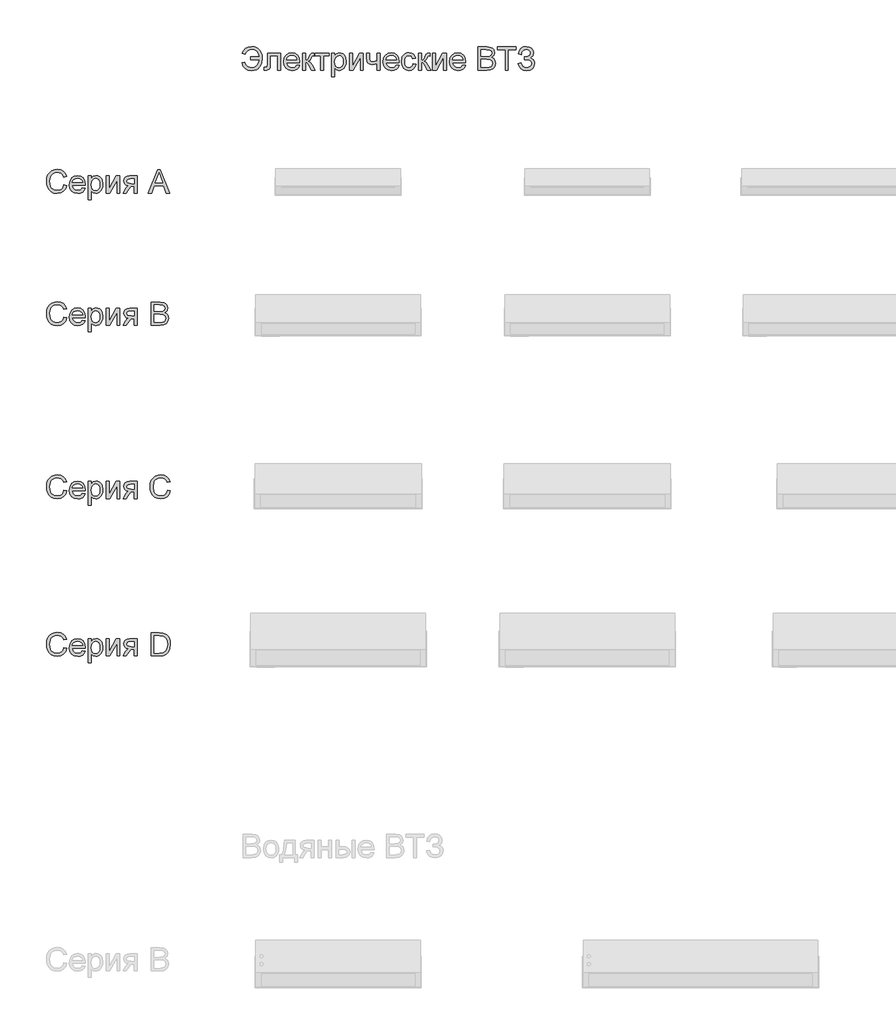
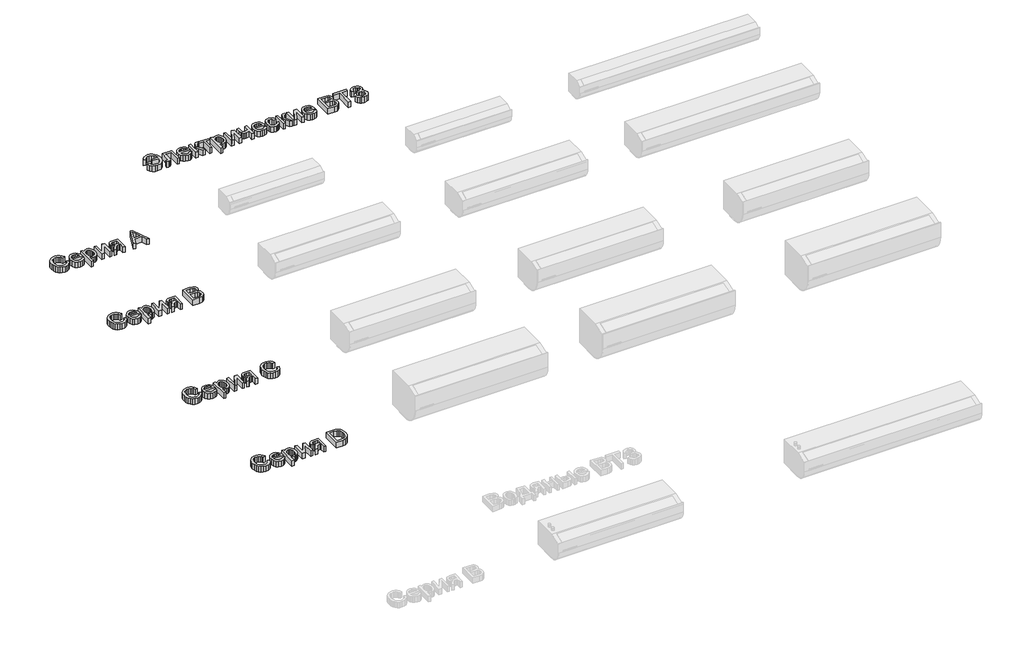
# One storey, part 6 of 6: 5 proxies.
"""IFC4 building model written with IfcOpenShell, lengths in millimetres."""

from ifc_helpers import new_model, si_unit, origin, origin_with_axes, place, context, project, spatial, polyline, outline, extrude, element, save

model = new_model("IFC4")

# Units and contexts
model_context = context("Model", 3, world=origin())
ifc_project = project(units=[si_unit("LENGTHUNIT", "METRE", prefix="MILLI")], contexts=[model_context])

# Site, building, storey
site = spatial("IfcSite", under=ifc_project)
building = spatial("IfcBuilding", under=site)
storey = spatial("IfcBuildingStorey", under=building, Name="Уровень 1", Elevation=0.0)

# Proxies
placement = place(None, origin())
element("IfcBuildingElementProxy", 1, Name="600 мм Arial", ObjectType="600 мм Arial", at=placement, inside=storey, context=model_context, shape_type="SweptSolid", body=[
    extrude(outline(polyline([(-13693.6239599, 8154.2997709), (-13638.2393445, 8154.2997709), (-13642.3048493, 8173.3427396), (-13652.0494407, 8187.9956843), (-13667.0314118, 8197.3391338), (-13686.809056, 8200.453617), (-13701.7166582, 8198.578617), (-13713.590907, 8192.953617), (-13722.4318024, 8183.578617), (-13728.2393445, 8170.453617), (-13746.700883, 8175.0690016), (-13738.8042483, 8193.4403959), (-13725.9316522, 8207.3045786), (-13708.7050897, 8216.0125113), (-13687.746556, 8218.9151555), (-13667.6173493, 8216.2513935), (-13650.4989599, 8208.2601074), (-13636.9007027, 8196.1266939), (-13627.3318926, 8181.0365497), (-13621.6663277, 8163.5891338), (-13619.777806, 8144.3839055), (-13623.1942724, 8114.1089656), (-13635.6792483, 8089.0533766), (-13645.3043986, 8079.2332895), (-13657.1606185, 8072.2189415), (-13687.5662676, 8066.6074632), (-13709.6606185, 8069.6363093), (-13727.2657868, 8078.7228478), (-13740.3817724, 8093.8670786), (-13749.0085753, 8115.0690016), (-13730.5470368, 8119.6843863), (-13724.309056, 8104.5401555), (-13714.7177099, 8093.7228478), (-13701.7729983, 8087.2324632), (-13685.4749214, 8085.0690016), (-13667.0674695, 8088.4674391), (-13652.3018445, 8098.6627516), (-13642.3138637, 8114.7534968), (-13638.2393445, 8135.8382324), (-13693.6239599, 8135.8382324), (-13693.6239599, 8154.2997709)])), origin_with_axes(), (0.0, 0.0, 1.0), 50.0),
    extrude(outline(polyline([(-13587.4701137, 8177.3766939), (-13504.3931907, 8177.3766939), (-13504.3931907, 8069.0233286), (-13522.8547291, 8069.0233286), (-13522.8547291, 8158.9151555), (-13569.0085753, 8158.9151555), (-13569.0085753, 8107.172367), (-13570.2525657, 8083.3021747), (-13577.0854983, 8073.2240497), (-13593.2393445, 8068.9151555), (-13608.2393445, 8069.8526555), (-13608.2393445, 8087.3766939), (-13599.982133, 8087.3766939), (-13591.6347772, 8088.5125113), (-13588.2994407, 8092.1182805), (-13587.4701137, 8108.2180401), (-13587.4701137, 8177.3766939)])), origin_with_axes(), (0.0, 0.0, 1.0), 50.0),
    extrude(outline(polyline([(-13400.763383, 8101.2228478), (-13382.6624214, 8098.9151555), (-13389.1843565, 8085.2763334), (-13399.591508, 8075.0810209), (-13413.6495008, 8068.7258526), (-13431.1239599, 8066.6074632), (-13452.7856185, 8070.2628117), (-13469.4532868, 8081.2288574), (-13480.0812916, 8098.7934608), (-13483.6239599, 8122.2444824), (-13480.0452339, 8146.4842661), (-13469.309056, 8164.6122709), (-13452.8667483, 8175.9163574), (-13432.169633, 8179.6843863), (-13412.1170488, 8175.9253718), (-13396.0939118, 8164.6483286), (-13385.5876017, 8146.5563814), (-13382.0854983, 8122.3526555), (-13382.1936714, 8117.3766939), (-13465.1624214, 8117.3766939), (-13461.9668084, 8103.5575834), (-13454.543431, 8093.3983286), (-13443.8297892, 8087.1513334), (-13430.763383, 8085.0690016), (-13412.6624214, 8088.9271747), (-13400.763383, 8101.2228478)]), holes=[polyline([(-13465.1624214, 8135.8382324), (-13400.5470368, 8135.8382324), (-13403.044032, 8145.5918382), (-13407.9388637, 8152.5690016), (-13418.7020849, 8159.0593863), (-13432.2417483, 8161.2228478), (-13444.6861594, 8159.4965858), (-13454.9761233, 8154.3177997), (-13462.1290681, 8146.2453838), (-13465.1624214, 8135.8382324)])]), origin_with_axes(), (0.0, 0.0, 1.0), 50.0),
    extrude(outline(polyline([(-13363.6239599, 8177.3766939), (-13345.1624214, 8177.3766939), (-13345.1624214, 8131.2228478), (-13332.794633, 8134.5401555), (-13322.6624214, 8153.8670786), (-13314.2429503, 8170.5437613), (-13306.8150657, 8175.9704439), (-13293.3114599, 8177.3766939), (-13289.777806, 8177.3766939), (-13289.777806, 8158.8069824), (-13294.7537676, 8158.9151555), (-13303.7681907, 8156.9680401), (-13310.1143445, 8144.8165978), (-13317.560258, 8131.6735689), (-13327.9989599, 8125.2372709), (-13316.3523253, 8118.0527757), (-13304.9220368, 8102.9175593), (-13285.1624214, 8068.9151555), (-13306.1479983, 8068.9151555), (-13325.5109791, 8102.1964055), (-13335.246556, 8116.2769343), (-13345.1624214, 8119.6843863), (-13345.1624214, 8068.9151555), (-13363.6239599, 8068.9151555), (-13363.6239599, 8177.3766939)])), origin_with_axes(), (0.0, 0.0, 1.0), 50.0),
    extrude(outline(polyline([(-13282.8547291, 8177.3766939), (-13195.1624214, 8177.3766939), (-13195.1624214, 8158.9151555), (-13229.777806, 8158.9151555), (-13229.777806, 8068.9151555), (-13248.2393445, 8068.9151555), (-13248.2393445, 8158.9151555), (-13282.8547291, 8158.9151555), (-13282.8547291, 8177.3766939)])), origin_with_axes(), (0.0, 0.0, 1.0), 50.0),
    extrude(outline(polyline([(-13179.0085753, 8027.3766939), (-13179.0085753, 8177.3766939), (-13160.5470368, 8177.3766939), (-13160.5470368, 8159.2757324), (-13147.7826137, 8174.5822228), (-13130.5470368, 8179.6843863), (-13118.0620608, 8177.8995305), (-13107.1455945, 8172.5449632), (-13098.2573733, 8163.9452036), (-13091.857133, 8152.4247709), (-13086.700883, 8123.9752516), (-13088.1567123, 8108.1864896), (-13092.5242003, 8094.0653959), (-13099.6636233, 8082.328617), (-13109.435258, 8073.6927997), (-13120.8159671, 8068.3787973), (-13132.7826137, 8066.6074632), (-13148.8463157, 8071.3490497), (-13160.5470368, 8083.3382324), (-13160.5470368, 8027.3766939), (-13179.0085753, 8027.3766939)]), holes=[polyline([(-13160.5470368, 8122.2805401), (-13158.5503421, 8105.7300593), (-13152.560258, 8094.1555401), (-13143.7216161, 8087.3406363), (-13133.1792483, 8085.0690016), (-13122.4656065, 8087.4217661), (-13113.4016041, 8094.4800593), (-13107.2222171, 8106.4782564), (-13105.1624214, 8123.6507324), (-13107.1726378, 8140.1110689), (-13113.2032868, 8151.8478478), (-13122.028407, 8158.8790978), (-13132.4220368, 8161.2228478), (-13142.8562315, 8158.7303598), (-13152.0193926, 8151.2528959), (-13158.4151258, 8139.024831), (-13160.5470368, 8122.2805401)])]), origin_with_axes(), (0.0, 0.0, 1.0), 50.0),
    extrude(outline(polyline([(-13065.9316522, 8177.3766939), (-13047.4701137, 8177.3766939), (-13047.4701137, 8094.6603478), (-13002.1095368, 8177.3766939), (-12978.2393445, 8177.3766939), (-12978.2393445, 8068.9151555), (-12996.700883, 8068.9151555), (-12996.700883, 8151.1266939), (-13041.7729983, 8068.9151555), (-13065.9316522, 8068.9151555), (-13065.9316522, 8177.3766939)])), origin_with_axes(), (0.0, 0.0, 1.0), 50.0),
    extrude(outline(polyline([(-12957.4701137, 8177.3766939), (-12939.0085753, 8177.3766939), (-12939.0085753, 8156.5714055), (-12937.512181, 8137.0641939), (-12930.3186714, 8126.4992901), (-12916.0398253, 8121.9920786), (-12890.5470368, 8127.5810209), (-12890.5470368, 8177.3766939), (-12872.0854983, 8177.3766939), (-12872.0854983, 8068.9151555), (-12890.5470368, 8068.9151555), (-12890.5470368, 8109.8766939), (-12920.9797291, 8103.5305401), (-12932.1440921, 8105.1846867), (-12941.9112195, 8110.1471266), (-12949.5238998, 8117.5074031), (-12954.2249214, 8126.3550593), (-12957.4701137, 8147.4488093), (-12957.4701137, 8177.3766939)])), origin_with_axes(), (0.0, 0.0, 1.0), 50.0),
    extrude(outline(polyline([(-12768.4556907, 8101.2228478), (-12750.3547291, 8098.9151555), (-12756.8766642, 8085.2763334), (-12767.2838157, 8075.0810209), (-12781.3418084, 8068.7258526), (-12798.8162676, 8066.6074632), (-12820.4779262, 8070.2628117), (-12837.1455945, 8081.2288574), (-12847.7735993, 8098.7934608), (-12851.3162676, 8122.2444824), (-12847.7375416, 8146.4842661), (-12837.0013637, 8164.6122709), (-12820.559056, 8175.9163574), (-12799.8619407, 8179.6843863), (-12779.8093565, 8175.9253718), (-12763.7862195, 8164.6483286), (-12753.2799094, 8146.5563814), (-12749.777806, 8122.3526555), (-12749.8859791, 8117.3766939), (-12832.8547291, 8117.3766939), (-12829.6591161, 8103.5575834), (-12822.2357387, 8093.3983286), (-12811.5220969, 8087.1513334), (-12798.4556907, 8085.0690016), (-12780.3547291, 8088.9271747), (-12768.4556907, 8101.2228478)]), holes=[polyline([(-12832.8547291, 8135.8382324), (-12768.2393445, 8135.8382324), (-12770.7363397, 8145.5918382), (-12775.6311714, 8152.5690016), (-12786.3943926, 8159.0593863), (-12799.934056, 8161.2228478), (-12812.3784671, 8159.4965858), (-12822.668431, 8154.3177997), (-12829.8213758, 8146.2453838), (-12832.8547291, 8135.8382324)])]), origin_with_axes(), (0.0, 0.0, 1.0), 50.0),
    extrude(outline(polyline([(-12662.0854983, 8108.1459247), (-12643.6239599, 8105.8382324), (-12648.7711955, 8089.4184608), (-12658.4436714, 8077.0101074), (-12671.730931, 8069.2081242), (-12687.7225176, 8066.6074632), (-12707.3604383, 8070.2357685), (-12722.716508, 8081.1206843), (-12732.6278661, 8098.7844463), (-12735.9316522, 8122.7492901), (-12730.2886233, 8153.4163574), (-12723.1672291, 8164.914254), (-12713.0891041, 8173.1218863), (-12701.0323133, 8178.0437613), (-12687.9749214, 8179.6843863), (-12672.3754623, 8177.4307805), (-12659.904008, 8170.6699632), (-12650.9571931, 8159.7625113), (-12645.9316522, 8145.0690016), (-12664.3931907, 8142.7613093), (-12672.9568926, 8156.5894343), (-12687.8306907, 8161.2228478), (-12699.7612796, 8158.9421988), (-12709.230931, 8152.1002516), (-12715.4103181, 8140.3274151), (-12717.4701137, 8123.2540978), (-12715.4553902, 8105.9509127), (-12709.4112195, 8094.1375113), (-12700.1128421, 8087.336129), (-12688.3354983, 8085.0690016), (-12678.7757027, 8086.4842661), (-12670.9376618, 8090.7300593), (-12665.2360392, 8097.9145545), (-12662.0854983, 8108.1459247)])), origin_with_axes(), (0.0, 0.0, 1.0), 50.0),
    extrude(outline(polyline([(-12627.4701137, 8177.3766939), (-12609.0085753, 8177.3766939), (-12609.0085753, 8131.2228478), (-12596.6407868, 8134.5401555), (-12586.5085753, 8153.8670786), (-12578.0891041, 8170.5437613), (-12570.6612195, 8175.9704439), (-12557.1576137, 8177.3766939), (-12553.6239599, 8177.3766939), (-12553.6239599, 8158.8069824), (-12558.5999214, 8158.9151555), (-12567.6143445, 8156.9680401), (-12573.9604983, 8144.8165978), (-12581.4064118, 8131.6735689), (-12591.8451137, 8125.2372709), (-12580.1984791, 8118.0527757), (-12568.7681907, 8102.9175593), (-12549.0085753, 8068.9151555), (-12569.9941522, 8068.9151555), (-12589.357133, 8102.1964055), (-12599.0927099, 8116.2769343), (-12609.0085753, 8119.6843863), (-12609.0085753, 8068.9151555), (-12627.4701137, 8068.9151555), (-12627.4701137, 8177.3766939)])), origin_with_axes(), (0.0, 0.0, 1.0), 50.0),
    extrude(outline(polyline([(-12537.4701137, 8177.3766939), (-12519.0085753, 8177.3766939), (-12519.0085753, 8094.6603478), (-12473.6479983, 8177.3766939), (-12449.777806, 8177.3766939), (-12449.777806, 8068.9151555), (-12468.2393445, 8068.9151555), (-12468.2393445, 8151.1266939), (-12513.3114599, 8068.9151555), (-12537.4701137, 8068.9151555), (-12537.4701137, 8177.3766939)])), origin_with_axes(), (0.0, 0.0, 1.0), 50.0),
    extrude(outline(polyline([(-12346.1479983, 8101.2228478), (-12328.0470368, 8098.9151555), (-12334.5689719, 8085.2763334), (-12344.9761233, 8075.0810209), (-12359.0341161, 8068.7258526), (-12376.5085753, 8066.6074632), (-12398.1702339, 8070.2628117), (-12414.8379022, 8081.2288574), (-12425.465907, 8098.7934608), (-12429.0085753, 8122.2444824), (-12425.4298493, 8146.4842661), (-12414.6936714, 8164.6122709), (-12398.2513637, 8175.9163574), (-12377.5542483, 8179.6843863), (-12357.5016642, 8175.9253718), (-12341.4785272, 8164.6483286), (-12330.9722171, 8146.5563814), (-12327.4701137, 8122.3526555), (-12327.5782868, 8117.3766939), (-12410.5470368, 8117.3766939), (-12407.3514238, 8103.5575834), (-12399.9280464, 8093.3983286), (-12389.2144046, 8087.1513334), (-12376.1479983, 8085.0690016), (-12358.0470368, 8088.9271747), (-12346.1479983, 8101.2228478)]), holes=[polyline([(-12410.5470368, 8135.8382324), (-12345.9316522, 8135.8382324), (-12348.4286474, 8145.5918382), (-12353.3234791, 8152.5690016), (-12364.0867003, 8159.0593863), (-12377.6263637, 8161.2228478), (-12390.0707748, 8159.4965858), (-12400.3607387, 8154.3177997), (-12407.5136834, 8146.2453838), (-12410.5470368, 8135.8382324)])]), origin_with_axes(), (0.0, 0.0, 1.0), 50.0),
    extrude(outline(polyline([(-12249.0085753, 8068.9151555), (-12249.0085753, 8216.6074632), (-12192.6504022, 8216.6074632), (-12165.0482387, 8212.2625113), (-12155.7723974, 8206.7501915), (-12148.7501618, 8198.9031363), (-12142.8547291, 8180.0089055), (-12147.8126618, 8162.7552997), (-12162.794633, 8149.6843863), (-12152.333395, 8144.2216459), (-12144.6035272, 8135.9103478), (-12139.8303902, 8125.3003718), (-12138.2393445, 8112.9415978), (-12142.5842964, 8093.0918382), (-12153.3475176, 8078.9572228), (-12169.4112195, 8071.4572228), (-12193.0830945, 8068.9151555), (-12249.0085753, 8068.9151555)]), holes=[polyline([(-12230.5470368, 8156.6074632), (-12196.8330945, 8156.6074632), (-12177.1455945, 8158.1940016), (-12165.3006426, 8165.0269343), (-12161.3162676, 8177.0521747), (-12165.0302099, 8189.0954439), (-12175.6672291, 8196.2168382), (-12199.3931907, 8198.1459247), (-12230.5470368, 8198.1459247), (-12230.5470368, 8156.6074632)]), polyline([(-12230.5470368, 8087.3766939), (-12192.6864599, 8087.3766939), (-12178.9845368, 8088.0978478), (-12167.3919887, 8092.1182805), (-12159.7117003, 8100.3214055), (-12156.700883, 8112.7613093), (-12160.2345368, 8127.1122709), (-12171.6828541, 8135.6759728), (-12194.4893445, 8138.1459247), (-12230.5470368, 8138.1459247), (-12230.5470368, 8087.3766939)])]), origin_with_axes(), (0.0, 0.0, 1.0), 50.0),
    extrude(outline(polyline([(-12075.9316522, 8068.9151555), (-12075.9316522, 8198.1459247), (-12124.3931907, 8198.1459247), (-12124.3931907, 8216.6074632), (-12009.0085753, 8216.6074632), (-12009.0085753, 8198.1459247), (-12057.4701137, 8198.1459247), (-12057.4701137, 8068.9151555), (-12075.9316522, 8068.9151555)])), origin_with_axes(), (0.0, 0.0, 1.0), 50.0),
    extrude(outline(polyline([(-11995.1624214, 8110.453617), (-11976.700883, 8115.0690016), (-11965.3607387, 8095.0750113), (-11954.6470969, 8087.570504), (-11940.9316522, 8085.0690016), (-11927.035919, 8086.9485088), (-11916.4304503, 8092.5870305), (-11909.7101979, 8100.8848069), (-11907.4701137, 8110.7420786), (-11909.9175296, 8121.0681002), (-11917.2597772, 8129.0413574), (-11928.8207748, 8134.1390137), (-11943.9244407, 8135.8382324), (-11953.6239599, 8135.8382324), (-11953.6239599, 8154.2997709), (-11932.7285272, 8155.7961651), (-11919.9460753, 8163.4403959), (-11914.3931907, 8177.4127516), (-11916.2411474, 8186.1071627), (-11921.7850176, 8193.5846266), (-11930.4839358, 8198.7363694), (-11941.7970368, 8200.453617), (-11960.637181, 8195.1711651), (-11971.418431, 8181.1627516), (-11974.3931907, 8168.1459247), (-11992.8547291, 8172.7613093), (-11987.1193024, 8192.953617), (-11976.7279262, 8207.3766939), (-11961.6806005, 8216.0305401), (-11941.9773253, 8218.9151555), (-11922.9704142, 8215.9178598), (-11908.3535272, 8206.9259728), (-11899.0371209, 8193.9226675), (-11895.9316522, 8178.891117), (-11900.763383, 8160.6188814), (-11915.2585753, 8146.9800593), (-11904.9911474, 8142.2519944), (-11896.544633, 8134.2697228), (-11890.8925897, 8123.7183406), (-11889.0085753, 8111.2829439), (-11892.6233589, 8093.7994704), (-11903.4677099, 8079.4259728), (-11920.2796089, 8069.8120906), (-11941.7970368, 8066.6074632), (-11960.5199935, 8069.3478478), (-11975.6552099, 8077.5690016), (-11987.2026858, 8091.2709247), (-11995.1624214, 8110.453617)])), origin_with_axes(), (0.0, 0.0, 1.0), 50.0),
])
element("IfcBuildingElementProxy", 2, Name="600 мм Arial", ObjectType="600 мм Arial", at=placement, inside=storey, context=model_context, shape_type="SweptSolid", body=[
    extrude(outline(polyline([(-14879.9613659, 7341.2261302), (-14861.4998274, 7336.4665148), (-14870.0184572, 7314.9535942), (-14883.3868467, 7299.2369475), (-14900.9469428, 7289.6230653), (-14922.0406928, 7286.4184379), (-14943.4544548, 7288.8433177), (-14960.460164, 7296.1179571), (-14973.4950197, 7307.9899523), (-14982.9962217, 7324.2068994), (-14988.7970029, 7343.2724043), (-14990.7305967, 7363.6900725), (-14988.5445991, 7385.2255293), (-14981.9866063, 7403.8222841), (-14971.3991664, 7418.8898922), (-14957.1248274, 7429.8379091), (-14940.1957409, 7436.5040749), (-14921.6440582, 7438.7261302), (-14901.4021712, 7435.8505293), (-14884.6668947, 7427.2237264), (-14871.9610654, 7413.3775725), (-14863.8075197, 7394.8439187), (-14882.2690582, 7390.4448802), (-14888.6692986, 7403.9079211), (-14897.413289, 7413.1431975), (-14908.6092024, 7418.4842432), (-14922.365212, 7420.2645918), (-14938.2215822, 7418.2904331), (-14951.2474236, 7412.3679571), (-14961.1317385, 7403.1191591), (-14967.5635294, 7391.1660341), (-14972.2690582, 7363.7261302), (-14966.6981447, 7331.9232456), (-14959.5767505, 7320.0467432), (-14949.3543947, 7311.604736), (-14937.0992866, 7306.5611663), (-14923.8796351, 7304.8799764), (-14908.4694789, 7307.1696398), (-14895.6284332, 7314.0386302), (-14885.9334212, 7325.4148321), (-14879.9613659, 7341.2261302)])), origin_with_axes(), (0.0, 0.0, 1.0), 50.0),
    extrude(outline(polyline([(-14762.4854044, 7321.0338225), (-14744.3844428, 7318.7261302), (-14750.9063779, 7305.0873081), (-14761.3135294, 7294.8919956), (-14775.3715221, 7288.5368273), (-14792.8459813, 7286.4184379), (-14814.5076399, 7290.0737865), (-14831.1753082, 7301.0398321), (-14841.803313, 7318.6044355), (-14845.3459813, 7342.0554571), (-14841.7672553, 7366.2952408), (-14831.0310774, 7384.4232456), (-14814.5887697, 7395.7273321), (-14793.8916544, 7399.495361), (-14773.8390702, 7395.7363466), (-14757.8159332, 7384.4593033), (-14747.3096231, 7366.3673562), (-14743.8075197, 7342.1636302), (-14743.9156928, 7337.1876687), (-14826.8844428, 7337.1876687), (-14823.6888298, 7323.3685581), (-14816.2654524, 7313.2093033), (-14805.5518106, 7306.9623081), (-14792.4854044, 7304.8799764), (-14774.3844428, 7308.7381494), (-14762.4854044, 7321.0338225)]), holes=[polyline([(-14826.8844428, 7355.6492071), (-14762.2690582, 7355.6492071), (-14764.7660534, 7365.4028129), (-14769.6608851, 7372.3799764), (-14780.4241063, 7378.870361), (-14793.9637697, 7381.0338225), (-14806.4081808, 7379.3075605), (-14816.6981447, 7374.1287744), (-14823.8510894, 7366.0563586), (-14826.8844428, 7355.6492071)])]), origin_with_axes(), (0.0, 0.0, 1.0), 50.0),
    extrude(outline(polyline([(-14725.3459813, 7247.1876687), (-14725.3459813, 7397.1876687), (-14706.8844428, 7397.1876687), (-14706.8844428, 7379.0867071), (-14694.1200197, 7394.3931975), (-14676.8844428, 7399.495361), (-14664.3994669, 7397.7105052), (-14653.4830005, 7392.3559379), (-14644.5947794, 7383.7561783), (-14638.194539, 7372.2357456), (-14633.038289, 7343.7862264), (-14634.4941183, 7327.9974644), (-14638.8616063, 7313.8763706), (-14646.0010294, 7302.1395918), (-14655.772664, 7293.5037744), (-14667.1533731, 7288.189772), (-14679.1200197, 7286.4184379), (-14695.1837217, 7291.1600244), (-14706.8844428, 7303.1492071), (-14706.8844428, 7247.1876687), (-14725.3459813, 7247.1876687)]), holes=[polyline([(-14706.8844428, 7342.0915148), (-14704.8877481, 7325.5410341), (-14698.897664, 7313.9665148), (-14690.0590221, 7307.151611), (-14679.5166544, 7304.8799764), (-14668.8030125, 7307.2327408), (-14659.7390101, 7314.2910341), (-14653.5596231, 7326.2892312), (-14651.4998274, 7343.4617071), (-14653.5100438, 7359.9220437), (-14659.5406928, 7371.6588225), (-14668.365813, 7378.6900725), (-14678.7594428, 7381.0338225), (-14689.1936375, 7378.5413345), (-14698.3567986, 7371.0638706), (-14704.7525318, 7358.8358057), (-14706.8844428, 7342.0915148)])]), origin_with_axes(), (0.0, 0.0, 1.0), 50.0),
    extrude(outline(polyline([(-14612.2690582, 7397.1876687), (-14593.8075197, 7397.1876687), (-14593.8075197, 7314.4713225), (-14548.4469428, 7397.1876687), (-14524.5767505, 7397.1876687), (-14524.5767505, 7288.7261302), (-14543.038289, 7288.7261302), (-14543.038289, 7370.9376687), (-14588.1104044, 7288.7261302), (-14612.2690582, 7288.7261302), (-14612.2690582, 7397.1876687)])), origin_with_axes(), (0.0, 0.0, 1.0), 50.0),
    extrude(outline(polyline([(-14413.8075197, 7397.1876687), (-14413.8075197, 7288.7261302), (-14432.2690582, 7288.7261302), (-14432.2690582, 7330.2645918), (-14442.3291544, 7330.2645918), (-14456.0310774, 7327.9208418), (-14468.9036736, 7312.1636302), (-14483.615212, 7288.7261302), (-14504.9613659, 7288.7261302), (-14486.427712, 7318.3655533), (-14478.2426159, 7329.0025725), (-14470.7065582, 7333.7261302), (-14483.3267505, 7337.5933177), (-14492.1969428, 7344.9400725), (-14497.443337, 7354.7117071), (-14499.1921351, 7365.8535341), (-14496.803313, 7378.4917552), (-14489.6368467, 7388.4977648), (-14477.9451399, 7395.0151927), (-14461.9805967, 7397.1876687), (-14413.8075197, 7397.1876687)]), holes=[polyline([(-14432.2690582, 7378.7261302), (-14456.6080005, 7378.7261302), (-14469.1786135, 7377.6579211), (-14476.3135294, 7374.4532937), (-14480.7305967, 7364.4472841), (-14479.1034933, 7357.4115269), (-14474.2221832, 7352.5302168), (-14451.163289, 7348.7261302), (-14432.2690582, 7348.7261302), (-14432.2690582, 7378.7261302)])]), origin_with_axes(), (0.0, 0.0, 1.0), 50.0),
    extrude(outline(polyline([(-14343.3147313, 7288.7261302), (-14284.3604044, 7436.4184379), (-14268.6392505, 7436.4184379), (-14209.6849236, 7288.7261302), (-14229.1921351, 7288.7261302), (-14246.1031928, 7334.8799764), (-14306.9325197, 7334.8799764), (-14323.8075197, 7288.7261302), (-14343.3147313, 7288.7261302)]), holes=[polyline([(-14300.1536736, 7353.3415148), (-14252.8459813, 7353.3415148), (-14266.1512697, 7389.651611), (-14276.4998274, 7417.9568994), (-14285.694539, 7392.8246879), (-14300.1536736, 7353.3415148)])]), origin_with_axes(), (0.0, 0.0, 1.0), 50.0),
])
element("IfcBuildingElementProxy", 3, Name="600 мм Arial", ObjectType="600 мм Arial", at=placement, inside=storey, context=model_context, shape_type="SweptSolid", body=[
    extrude(outline(polyline([(-14879.9613659, 6501.2261302), (-14861.4998274, 6496.4665148), (-14870.0184572, 6474.9535942), (-14883.3868467, 6459.2369475), (-14900.9469428, 6449.6230653), (-14922.0406928, 6446.4184379), (-14943.4544548, 6448.8433177), (-14960.460164, 6456.1179571), (-14973.4950197, 6467.9899523), (-14982.9962217, 6484.2068994), (-14988.7970029, 6503.2724043), (-14990.7305967, 6523.6900725), (-14988.5445991, 6545.2255293), (-14981.9866063, 6563.8222841), (-14971.3991664, 6578.8898922), (-14957.1248274, 6589.8379091), (-14940.1957409, 6596.5040749), (-14921.6440582, 6598.7261302), (-14901.4021712, 6595.8505293), (-14884.6668947, 6587.2237264), (-14871.9610654, 6573.3775725), (-14863.8075197, 6554.8439187), (-14882.2690582, 6550.4448802), (-14888.6692986, 6563.9079211), (-14897.413289, 6573.1431975), (-14908.6092024, 6578.4842432), (-14922.365212, 6580.2645918), (-14938.2215822, 6578.2904331), (-14951.2474236, 6572.3679571), (-14961.1317385, 6563.1191591), (-14967.5635294, 6551.1660341), (-14972.2690582, 6523.7261302), (-14966.6981447, 6491.9232456), (-14959.5767505, 6480.0467432), (-14949.3543947, 6471.604736), (-14937.0992866, 6466.5611663), (-14923.8796351, 6464.8799764), (-14908.4694789, 6467.1696398), (-14895.6284332, 6474.0386302), (-14885.9334212, 6485.4148321), (-14879.9613659, 6501.2261302)])), origin_with_axes(), (0.0, 0.0, 1.0), 50.0),
    extrude(outline(polyline([(-14762.4854044, 6481.0338225), (-14744.3844428, 6478.7261302), (-14750.9063779, 6465.0873081), (-14761.3135294, 6454.8919956), (-14775.3715221, 6448.5368273), (-14792.8459813, 6446.4184379), (-14814.5076399, 6450.0737865), (-14831.1753082, 6461.0398321), (-14841.803313, 6478.6044355), (-14845.3459813, 6502.0554571), (-14841.7672553, 6526.2952408), (-14831.0310774, 6544.4232456), (-14814.5887697, 6555.7273321), (-14793.8916544, 6559.495361), (-14773.8390702, 6555.7363466), (-14757.8159332, 6544.4593033), (-14747.3096231, 6526.3673562), (-14743.8075197, 6502.1636302), (-14743.9156928, 6497.1876687), (-14826.8844428, 6497.1876687), (-14823.6888298, 6483.3685581), (-14816.2654524, 6473.2093033), (-14805.5518106, 6466.9623081), (-14792.4854044, 6464.8799764), (-14774.3844428, 6468.7381494), (-14762.4854044, 6481.0338225)]), holes=[polyline([(-14826.8844428, 6515.6492071), (-14762.2690582, 6515.6492071), (-14764.7660534, 6525.4028129), (-14769.6608851, 6532.3799764), (-14780.4241063, 6538.870361), (-14793.9637697, 6541.0338225), (-14806.4081808, 6539.3075605), (-14816.6981447, 6534.1287744), (-14823.8510894, 6526.0563586), (-14826.8844428, 6515.6492071)])]), origin_with_axes(), (0.0, 0.0, 1.0), 50.0),
    extrude(outline(polyline([(-14725.3459813, 6407.1876687), (-14725.3459813, 6557.1876687), (-14706.8844428, 6557.1876687), (-14706.8844428, 6539.0867071), (-14694.1200197, 6554.3931975), (-14676.8844428, 6559.495361), (-14664.3994669, 6557.7105052), (-14653.4830005, 6552.3559379), (-14644.5947794, 6543.7561783), (-14638.194539, 6532.2357456), (-14633.038289, 6503.7862264), (-14634.4941183, 6487.9974644), (-14638.8616063, 6473.8763706), (-14646.0010294, 6462.1395918), (-14655.772664, 6453.5037744), (-14667.1533731, 6448.189772), (-14679.1200197, 6446.4184379), (-14695.1837217, 6451.1600244), (-14706.8844428, 6463.1492071), (-14706.8844428, 6407.1876687), (-14725.3459813, 6407.1876687)]), holes=[polyline([(-14706.8844428, 6502.0915148), (-14704.8877481, 6485.5410341), (-14698.897664, 6473.9665148), (-14690.0590221, 6467.151611), (-14679.5166544, 6464.8799764), (-14668.8030125, 6467.2327408), (-14659.7390101, 6474.2910341), (-14653.5596231, 6486.2892312), (-14651.4998274, 6503.4617071), (-14653.5100438, 6519.9220437), (-14659.5406928, 6531.6588225), (-14668.365813, 6538.6900725), (-14678.7594428, 6541.0338225), (-14689.1936375, 6538.5413345), (-14698.3567986, 6531.0638706), (-14704.7525318, 6518.8358057), (-14706.8844428, 6502.0915148)])]), origin_with_axes(), (0.0, 0.0, 1.0), 50.0),
    extrude(outline(polyline([(-14612.2690582, 6557.1876687), (-14593.8075197, 6557.1876687), (-14593.8075197, 6474.4713225), (-14548.4469428, 6557.1876687), (-14524.5767505, 6557.1876687), (-14524.5767505, 6448.7261302), (-14543.038289, 6448.7261302), (-14543.038289, 6530.9376687), (-14588.1104044, 6448.7261302), (-14612.2690582, 6448.7261302), (-14612.2690582, 6557.1876687)])), origin_with_axes(), (0.0, 0.0, 1.0), 50.0),
    extrude(outline(polyline([(-14413.8075197, 6557.1876687), (-14413.8075197, 6448.7261302), (-14432.2690582, 6448.7261302), (-14432.2690582, 6490.2645918), (-14442.3291544, 6490.2645918), (-14456.0310774, 6487.9208418), (-14468.9036736, 6472.1636302), (-14483.615212, 6448.7261302), (-14504.9613659, 6448.7261302), (-14486.427712, 6478.3655533), (-14478.2426159, 6489.0025725), (-14470.7065582, 6493.7261302), (-14483.3267505, 6497.5933177), (-14492.1969428, 6504.9400725), (-14497.443337, 6514.7117071), (-14499.1921351, 6525.8535341), (-14496.803313, 6538.4917552), (-14489.6368467, 6548.4977648), (-14477.9451399, 6555.0151927), (-14461.9805967, 6557.1876687), (-14413.8075197, 6557.1876687)]), holes=[polyline([(-14432.2690582, 6538.7261302), (-14456.6080005, 6538.7261302), (-14469.1786135, 6537.6579211), (-14476.3135294, 6534.4532937), (-14480.7305967, 6524.4472841), (-14479.1034933, 6517.4115269), (-14474.2221832, 6512.5302168), (-14451.163289, 6508.7261302), (-14432.2690582, 6508.7261302), (-14432.2690582, 6538.7261302)])]), origin_with_axes(), (0.0, 0.0, 1.0), 50.0),
    extrude(outline(polyline([(-14326.115212, 6448.7261302), (-14326.115212, 6596.4184379), (-14269.757039, 6596.4184379), (-14242.1548755, 6592.073486), (-14232.8790342, 6586.5611663), (-14225.8567986, 6578.714111), (-14219.9613659, 6559.8198802), (-14224.9192986, 6542.5662744), (-14239.9012697, 6529.495361), (-14229.4400318, 6524.0326206), (-14221.710164, 6515.7213225), (-14216.9370269, 6505.1113466), (-14215.3459813, 6492.7525725), (-14219.6909332, 6472.9028129), (-14230.4541544, 6458.7681975), (-14246.5178563, 6451.2681975), (-14270.1897313, 6448.7261302), (-14326.115212, 6448.7261302)]), holes=[polyline([(-14307.6536736, 6467.1876687), (-14269.7930967, 6467.1876687), (-14256.0911736, 6467.9088225), (-14244.4986255, 6471.9292552), (-14236.818337, 6480.1323802), (-14233.8075197, 6492.5722841), (-14237.3411736, 6506.9232456), (-14248.7894909, 6515.4869475), (-14271.5959813, 6517.9568994), (-14307.6536736, 6517.9568994), (-14307.6536736, 6467.1876687)]), polyline([(-14307.6536736, 6536.4184379), (-14273.9397313, 6536.4184379), (-14254.2522313, 6538.0049764), (-14242.4072794, 6544.8379091), (-14238.4229044, 6556.8631494), (-14242.1368467, 6568.9064187), (-14252.7738659, 6576.0278129), (-14276.4998274, 6577.9568994), (-14307.6536736, 6577.9568994), (-14307.6536736, 6536.4184379)])]), origin_with_axes(), (0.0, 0.0, 1.0), 50.0),
])
element("IfcBuildingElementProxy", 4, Name="600 мм Arial", ObjectType="600 мм Arial", at=placement, inside=storey, context=model_context, shape_type="SweptSolid", body=[
    extrude(outline(polyline([(-14879.9613659, 4401.2261302), (-14861.4998274, 4396.4665148), (-14870.0184572, 4374.9535942), (-14883.3868467, 4359.2369475), (-14900.9469428, 4349.6230653), (-14922.0406928, 4346.4184379), (-14943.4544548, 4348.8433177), (-14960.460164, 4356.1179571), (-14973.4950197, 4367.9899523), (-14982.9962217, 4384.2068994), (-14988.7970029, 4403.2724043), (-14990.7305967, 4423.6900725), (-14988.5445991, 4445.2255293), (-14981.9866063, 4463.8222841), (-14971.3991664, 4478.8898922), (-14957.1248274, 4489.8379091), (-14940.1957409, 4496.5040749), (-14921.6440582, 4498.7261302), (-14901.4021712, 4495.8505293), (-14884.6668947, 4487.2237264), (-14871.9610654, 4473.3775725), (-14863.8075197, 4454.8439187), (-14882.2690582, 4450.4448802), (-14888.6692986, 4463.9079211), (-14897.413289, 4473.1431975), (-14908.6092024, 4478.4842432), (-14922.365212, 4480.2645918), (-14938.2215822, 4478.2904331), (-14951.2474236, 4472.3679571), (-14961.1317385, 4463.1191591), (-14967.5635294, 4451.1660341), (-14972.2690582, 4423.7261302), (-14966.6981447, 4391.9232456), (-14959.5767505, 4380.0467432), (-14949.3543947, 4371.604736), (-14937.0992866, 4366.5611663), (-14923.8796351, 4364.8799764), (-14908.4694789, 4367.1696398), (-14895.6284332, 4374.0386302), (-14885.9334212, 4385.4148321), (-14879.9613659, 4401.2261302)])), origin_with_axes(), (0.0, 0.0, 1.0), 50.0),
    extrude(outline(polyline([(-14762.4854044, 4381.0338225), (-14744.3844428, 4378.7261302), (-14750.9063779, 4365.0873081), (-14761.3135294, 4354.8919956), (-14775.3715221, 4348.5368273), (-14792.8459813, 4346.4184379), (-14814.5076399, 4350.0737865), (-14831.1753082, 4361.0398321), (-14841.803313, 4378.6044355), (-14845.3459813, 4402.0554571), (-14841.7672553, 4426.2952408), (-14831.0310774, 4444.4232456), (-14814.5887697, 4455.7273321), (-14793.8916544, 4459.495361), (-14773.8390702, 4455.7363466), (-14757.8159332, 4444.4593033), (-14747.3096231, 4426.3673562), (-14743.8075197, 4402.1636302), (-14743.9156928, 4397.1876687), (-14826.8844428, 4397.1876687), (-14823.6888298, 4383.3685581), (-14816.2654524, 4373.2093033), (-14805.5518106, 4366.9623081), (-14792.4854044, 4364.8799764), (-14774.3844428, 4368.7381494), (-14762.4854044, 4381.0338225)]), holes=[polyline([(-14826.8844428, 4415.6492071), (-14762.2690582, 4415.6492071), (-14764.7660534, 4425.4028129), (-14769.6608851, 4432.3799764), (-14780.4241063, 4438.870361), (-14793.9637697, 4441.0338225), (-14806.4081808, 4439.3075605), (-14816.6981447, 4434.1287744), (-14823.8510894, 4426.0563586), (-14826.8844428, 4415.6492071)])]), origin_with_axes(), (0.0, 0.0, 1.0), 50.0),
    extrude(outline(polyline([(-14725.3459813, 4307.1876687), (-14725.3459813, 4457.1876687), (-14706.8844428, 4457.1876687), (-14706.8844428, 4439.0867071), (-14694.1200197, 4454.3931975), (-14676.8844428, 4459.495361), (-14664.3994669, 4457.7105052), (-14653.4830005, 4452.3559379), (-14644.5947794, 4443.7561783), (-14638.194539, 4432.2357456), (-14633.038289, 4403.7862264), (-14634.4941183, 4387.9974644), (-14638.8616063, 4373.8763706), (-14646.0010294, 4362.1395918), (-14655.772664, 4353.5037744), (-14667.1533731, 4348.189772), (-14679.1200197, 4346.4184379), (-14695.1837217, 4351.1600244), (-14706.8844428, 4363.1492071), (-14706.8844428, 4307.1876687), (-14725.3459813, 4307.1876687)]), holes=[polyline([(-14706.8844428, 4402.0915148), (-14704.8877481, 4385.5410341), (-14698.897664, 4373.9665148), (-14690.0590221, 4367.151611), (-14679.5166544, 4364.8799764), (-14668.8030125, 4367.2327408), (-14659.7390101, 4374.2910341), (-14653.5596231, 4386.2892312), (-14651.4998274, 4403.4617071), (-14653.5100438, 4419.9220437), (-14659.5406928, 4431.6588225), (-14668.365813, 4438.6900725), (-14678.7594428, 4441.0338225), (-14689.1936375, 4438.5413345), (-14698.3567986, 4431.0638706), (-14704.7525318, 4418.8358057), (-14706.8844428, 4402.0915148)])]), origin_with_axes(), (0.0, 0.0, 1.0), 50.0),
    extrude(outline(polyline([(-14612.2690582, 4457.1876687), (-14593.8075197, 4457.1876687), (-14593.8075197, 4374.4713225), (-14548.4469428, 4457.1876687), (-14524.5767505, 4457.1876687), (-14524.5767505, 4348.7261302), (-14543.038289, 4348.7261302), (-14543.038289, 4430.9376687), (-14588.1104044, 4348.7261302), (-14612.2690582, 4348.7261302), (-14612.2690582, 4457.1876687)])), origin_with_axes(), (0.0, 0.0, 1.0), 50.0),
    extrude(outline(polyline([(-14413.8075197, 4457.1876687), (-14413.8075197, 4348.7261302), (-14432.2690582, 4348.7261302), (-14432.2690582, 4390.2645918), (-14442.3291544, 4390.2645918), (-14456.0310774, 4387.9208418), (-14468.9036736, 4372.1636302), (-14483.615212, 4348.7261302), (-14504.9613659, 4348.7261302), (-14486.427712, 4378.3655533), (-14478.2426159, 4389.0025725), (-14470.7065582, 4393.7261302), (-14483.3267505, 4397.5933177), (-14492.1969428, 4404.9400725), (-14497.443337, 4414.7117071), (-14499.1921351, 4425.8535341), (-14496.803313, 4438.4917552), (-14489.6368467, 4448.4977648), (-14477.9451399, 4455.0151927), (-14461.9805967, 4457.1876687), (-14413.8075197, 4457.1876687)]), holes=[polyline([(-14432.2690582, 4438.7261302), (-14456.6080005, 4438.7261302), (-14469.1786135, 4437.6579211), (-14476.3135294, 4434.4532937), (-14480.7305967, 4424.4472841), (-14479.1034933, 4417.4115269), (-14474.2221832, 4412.5302168), (-14451.163289, 4408.7261302), (-14432.2690582, 4408.7261302), (-14432.2690582, 4438.7261302)])]), origin_with_axes(), (0.0, 0.0, 1.0), 50.0),
    extrude(outline(polyline([(-14326.115212, 4348.7261302), (-14326.115212, 4496.4184379), (-14275.1656928, 4496.4184379), (-14248.8075197, 4494.2910341), (-14227.100789, 4483.7261302), (-14216.8874476, 4472.4761302), (-14209.6128082, 4458.4857456), (-14205.2588419, 4442.0254091), (-14203.8075197, 4423.3655533), (-14207.7378082, 4393.5638706), (-14217.833962, 4372.0554571), (-14231.319539, 4358.6600244), (-14248.9697794, 4351.2501687), (-14272.7137697, 4348.7261302), (-14326.115212, 4348.7261302)]), holes=[polyline([(-14307.6536736, 4367.1876687), (-14274.9854044, 4367.1876687), (-14251.2233851, 4369.8559379), (-14237.521462, 4377.3919956), (-14226.2894909, 4395.7273321), (-14222.2690582, 4423.6540148), (-14224.2387096, 4443.7742071), (-14230.147664, 4458.6299764), (-14238.8781327, 4468.8343033), (-14249.3123274, 4475.0001687), (-14275.490212, 4477.9568994), (-14307.6536736, 4477.9568994), (-14307.6536736, 4367.1876687)])]), origin_with_axes(), (0.0, 0.0, 1.0), 50.0),
])
element("IfcBuildingElementProxy", 5, Name="600 мм Arial", ObjectType="600 мм Arial", at=placement, inside=storey, context=model_context, shape_type="SweptSolid", body=[
    extrude(outline(polyline([(-14879.9613659, 5401.2261302), (-14861.4998274, 5396.4665148), (-14870.0184572, 5374.9535942), (-14883.3868467, 5359.2369475), (-14900.9469428, 5349.6230653), (-14922.0406928, 5346.4184379), (-14943.4544548, 5348.8433177), (-14960.460164, 5356.1179571), (-14973.4950197, 5367.9899523), (-14982.9962217, 5384.2068994), (-14988.7970029, 5403.2724043), (-14990.7305967, 5423.6900725), (-14988.5445991, 5445.2255293), (-14981.9866063, 5463.8222841), (-14971.3991664, 5478.8898922), (-14957.1248274, 5489.8379091), (-14940.1957409, 5496.5040749), (-14921.6440582, 5498.7261302), (-14901.4021712, 5495.8505293), (-14884.6668947, 5487.2237264), (-14871.9610654, 5473.3775725), (-14863.8075197, 5454.8439187), (-14882.2690582, 5450.4448802), (-14888.6692986, 5463.9079211), (-14897.413289, 5473.1431975), (-14908.6092024, 5478.4842432), (-14922.365212, 5480.2645918), (-14938.2215822, 5478.2904331), (-14951.2474236, 5472.3679571), (-14961.1317385, 5463.1191591), (-14967.5635294, 5451.1660341), (-14972.2690582, 5423.7261302), (-14966.6981447, 5391.9232456), (-14959.5767505, 5380.0467432), (-14949.3543947, 5371.604736), (-14937.0992866, 5366.5611663), (-14923.8796351, 5364.8799764), (-14908.4694789, 5367.1696398), (-14895.6284332, 5374.0386302), (-14885.9334212, 5385.4148321), (-14879.9613659, 5401.2261302)])), origin_with_axes(), (0.0, 0.0, 1.0), 50.0),
    extrude(outline(polyline([(-14762.4854044, 5381.0338225), (-14744.3844428, 5378.7261302), (-14750.9063779, 5365.0873081), (-14761.3135294, 5354.8919956), (-14775.3715221, 5348.5368273), (-14792.8459813, 5346.4184379), (-14814.5076399, 5350.0737865), (-14831.1753082, 5361.0398321), (-14841.803313, 5378.6044355), (-14845.3459813, 5402.0554571), (-14841.7672553, 5426.2952408), (-14831.0310774, 5444.4232456), (-14814.5887697, 5455.7273321), (-14793.8916544, 5459.495361), (-14773.8390702, 5455.7363466), (-14757.8159332, 5444.4593033), (-14747.3096231, 5426.3673562), (-14743.8075197, 5402.1636302), (-14743.9156928, 5397.1876687), (-14826.8844428, 5397.1876687), (-14823.6888298, 5383.3685581), (-14816.2654524, 5373.2093033), (-14805.5518106, 5366.9623081), (-14792.4854044, 5364.8799764), (-14774.3844428, 5368.7381494), (-14762.4854044, 5381.0338225)]), holes=[polyline([(-14826.8844428, 5415.6492071), (-14762.2690582, 5415.6492071), (-14764.7660534, 5425.4028129), (-14769.6608851, 5432.3799764), (-14780.4241063, 5438.870361), (-14793.9637697, 5441.0338225), (-14806.4081808, 5439.3075605), (-14816.6981447, 5434.1287744), (-14823.8510894, 5426.0563586), (-14826.8844428, 5415.6492071)])]), origin_with_axes(), (0.0, 0.0, 1.0), 50.0),
    extrude(outline(polyline([(-14725.3459813, 5307.1876687), (-14725.3459813, 5457.1876687), (-14706.8844428, 5457.1876687), (-14706.8844428, 5439.0867071), (-14694.1200197, 5454.3931975), (-14676.8844428, 5459.495361), (-14664.3994669, 5457.7105052), (-14653.4830005, 5452.3559379), (-14644.5947794, 5443.7561783), (-14638.194539, 5432.2357456), (-14633.038289, 5403.7862264), (-14634.4941183, 5387.9974644), (-14638.8616063, 5373.8763706), (-14646.0010294, 5362.1395918), (-14655.772664, 5353.5037744), (-14667.1533731, 5348.189772), (-14679.1200197, 5346.4184379), (-14695.1837217, 5351.1600244), (-14706.8844428, 5363.1492071), (-14706.8844428, 5307.1876687), (-14725.3459813, 5307.1876687)]), holes=[polyline([(-14706.8844428, 5402.0915148), (-14704.8877481, 5385.5410341), (-14698.897664, 5373.9665148), (-14690.0590221, 5367.151611), (-14679.5166544, 5364.8799764), (-14668.8030125, 5367.2327408), (-14659.7390101, 5374.2910341), (-14653.5596231, 5386.2892312), (-14651.4998274, 5403.4617071), (-14653.5100438, 5419.9220437), (-14659.5406928, 5431.6588225), (-14668.365813, 5438.6900725), (-14678.7594428, 5441.0338225), (-14689.1936375, 5438.5413345), (-14698.3567986, 5431.0638706), (-14704.7525318, 5418.8358057), (-14706.8844428, 5402.0915148)])]), origin_with_axes(), (0.0, 0.0, 1.0), 50.0),
    extrude(outline(polyline([(-14612.2690582, 5457.1876687), (-14593.8075197, 5457.1876687), (-14593.8075197, 5374.4713225), (-14548.4469428, 5457.1876687), (-14524.5767505, 5457.1876687), (-14524.5767505, 5348.7261302), (-14543.038289, 5348.7261302), (-14543.038289, 5430.9376687), (-14588.1104044, 5348.7261302), (-14612.2690582, 5348.7261302), (-14612.2690582, 5457.1876687)])), origin_with_axes(), (0.0, 0.0, 1.0), 50.0),
    extrude(outline(polyline([(-14413.8075197, 5457.1876687), (-14413.8075197, 5348.7261302), (-14432.2690582, 5348.7261302), (-14432.2690582, 5390.2645918), (-14442.3291544, 5390.2645918), (-14456.0310774, 5387.9208418), (-14468.9036736, 5372.1636302), (-14483.615212, 5348.7261302), (-14504.9613659, 5348.7261302), (-14486.427712, 5378.3655533), (-14478.2426159, 5389.0025725), (-14470.7065582, 5393.7261302), (-14483.3267505, 5397.5933177), (-14492.1969428, 5404.9400725), (-14497.443337, 5414.7117071), (-14499.1921351, 5425.8535341), (-14496.803313, 5438.4917552), (-14489.6368467, 5448.4977648), (-14477.9451399, 5455.0151927), (-14461.9805967, 5457.1876687), (-14413.8075197, 5457.1876687)]), holes=[polyline([(-14432.2690582, 5438.7261302), (-14456.6080005, 5438.7261302), (-14469.1786135, 5437.6579211), (-14476.3135294, 5434.4532937), (-14480.7305967, 5424.4472841), (-14479.1034933, 5417.4115269), (-14474.2221832, 5412.5302168), (-14451.163289, 5408.7261302), (-14432.2690582, 5408.7261302), (-14432.2690582, 5438.7261302)])]), origin_with_axes(), (0.0, 0.0, 1.0), 50.0),
    extrude(outline(polyline([(-14222.2690582, 5401.2261302), (-14203.8075197, 5396.4665148), (-14212.3261495, 5374.9535942), (-14225.694539, 5359.2369475), (-14243.2546351, 5349.6230653), (-14264.3483851, 5346.4184379), (-14285.7621471, 5348.8433177), (-14302.7678563, 5356.1179571), (-14315.802712, 5367.9899523), (-14325.303914, 5384.2068994), (-14331.1046952, 5403.2724043), (-14333.038289, 5423.6900725), (-14330.8522914, 5445.2255293), (-14324.2942986, 5463.8222841), (-14313.7068587, 5478.8898922), (-14299.4325197, 5489.8379091), (-14282.5034332, 5496.5040749), (-14263.9517505, 5498.7261302), (-14243.7098635, 5495.8505293), (-14226.974587, 5487.2237264), (-14214.2687577, 5473.3775725), (-14206.115212, 5454.8439187), (-14224.5767505, 5450.4448802), (-14230.9769909, 5463.9079211), (-14239.7209813, 5473.1431975), (-14250.9168947, 5478.4842432), (-14264.6729044, 5480.2645918), (-14280.5292745, 5478.2904331), (-14293.5551159, 5472.3679571), (-14303.4394308, 5463.1191591), (-14309.8712217, 5451.1660341), (-14314.5767505, 5423.7261302), (-14309.005837, 5391.9232456), (-14301.8844428, 5380.0467432), (-14291.662087, 5371.604736), (-14279.4069789, 5366.5611663), (-14266.1873274, 5364.8799764), (-14250.7771712, 5367.1696398), (-14237.9361255, 5374.0386302), (-14228.2411135, 5385.4148321), (-14222.2690582, 5401.2261302)])), origin_with_axes(), (0.0, 0.0, 1.0), 50.0),
])

save(model, "model.ifc")
